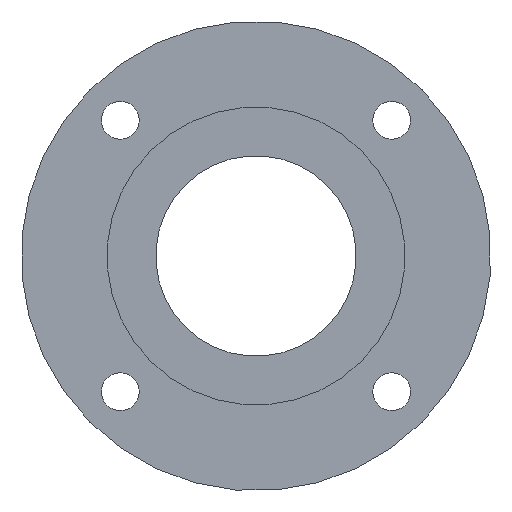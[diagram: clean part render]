
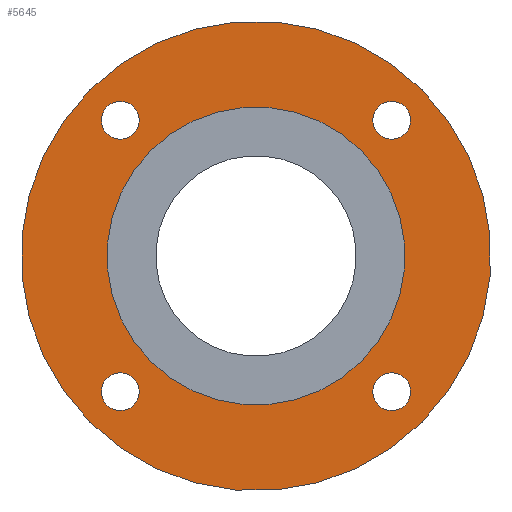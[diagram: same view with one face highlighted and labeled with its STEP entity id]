
A CAD part, left-side view. The second image highlights one B-rep face of the part: STEP entity #5645.
In plain terms, the highlighted planar face has unit normal (-1, 0, 0).
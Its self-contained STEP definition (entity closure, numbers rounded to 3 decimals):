
#111=CIRCLE('',#6002,26.);
#113=CIRCLE('',#6007,3.3);
#114=CIRCLE('',#6008,3.3);
#115=CIRCLE('',#6009,3.3);
#116=CIRCLE('',#6010,3.3);
#117=CIRCLE('',#6011,41.);
#1726=ORIENTED_EDGE('',*,*,#3355,.T.);
#1727=ORIENTED_EDGE('',*,*,#3356,.T.);
#1728=ORIENTED_EDGE('',*,*,#3357,.T.);
#1729=ORIENTED_EDGE('',*,*,#3358,.T.);
#1730=ORIENTED_EDGE('',*,*,#3359,.F.);
#1731=ORIENTED_EDGE('',*,*,#3353,.T.);
#3353=EDGE_CURVE('',#4169,#4169,#111,.T.);
#3355=EDGE_CURVE('',#4171,#4171,#113,.T.);
#3356=EDGE_CURVE('',#4172,#4172,#114,.T.);
#3357=EDGE_CURVE('',#4173,#4173,#115,.T.);
#3358=EDGE_CURVE('',#4174,#4174,#116,.T.);
#3359=EDGE_CURVE('',#4175,#4175,#117,.T.);
#4169=VERTEX_POINT('',#8959);
#4171=VERTEX_POINT('',#8966);
#4172=VERTEX_POINT('',#8968);
#4173=VERTEX_POINT('',#8970);
#4174=VERTEX_POINT('',#8972);
#4175=VERTEX_POINT('',#8974);
#4636=EDGE_LOOP('',(#1726));
#4637=EDGE_LOOP('',(#1727));
#4638=EDGE_LOOP('',(#1728));
#4639=EDGE_LOOP('',(#1729));
#4640=EDGE_LOOP('',(#1730));
#4641=EDGE_LOOP('',(#1731));
#5038=FACE_BOUND('',#4636,.T.);
#5039=FACE_BOUND('',#4637,.T.);
#5040=FACE_BOUND('',#4638,.T.);
#5041=FACE_BOUND('',#4639,.T.);
#5042=FACE_BOUND('',#4640,.T.);
#5043=FACE_BOUND('',#4641,.T.);
#5388=PLANE('',#6006);
#5645=ADVANCED_FACE('',(#5038,#5039,#5040,#5041,#5042,#5043),#5388,.F.);
#6002=AXIS2_PLACEMENT_3D('',#8958,#6518,#6519);
#6006=AXIS2_PLACEMENT_3D('',#8964,#6526,#6527);
#6007=AXIS2_PLACEMENT_3D('',#8965,#6528,#6529);
#6008=AXIS2_PLACEMENT_3D('',#8967,#6530,#6531);
#6009=AXIS2_PLACEMENT_3D('',#8969,#6532,#6533);
#6010=AXIS2_PLACEMENT_3D('',#8971,#6534,#6535);
#6011=AXIS2_PLACEMENT_3D('',#8973,#6536,#6537);
#6518=DIRECTION('',(1.,0.,0.));
#6519=DIRECTION('',(0.,0.707,-0.707));
#6526=DIRECTION('',(1.,0.,0.));
#6527=DIRECTION('',(0.,0.707,-0.707));
#6528=DIRECTION('',(1.,0.,0.));
#6529=DIRECTION('',(0.,0.707,-0.707));
#6530=DIRECTION('',(1.,0.,0.));
#6531=DIRECTION('',(0.,0.707,-0.707));
#6532=DIRECTION('',(1.,0.,0.));
#6533=DIRECTION('',(0.,0.707,-0.707));
#6534=DIRECTION('',(1.,0.,0.));
#6535=DIRECTION('',(0.,0.707,-0.707));
#6536=DIRECTION('',(1.,0.,0.));
#6537=DIRECTION('',(0.,0.707,-0.707));
#8958=CARTESIAN_POINT('',(57.5,0.,0.));
#8959=CARTESIAN_POINT('',(57.5,18.385,-18.385));
#8964=CARTESIAN_POINT('',(57.5,0.,0.));
#8965=CARTESIAN_POINT('',(57.5,23.688,-23.688));
#8966=CARTESIAN_POINT('',(57.5,26.022,-26.022));
#8967=CARTESIAN_POINT('',(57.5,-23.688,-23.688));
#8968=CARTESIAN_POINT('',(57.5,-21.355,-26.022));
#8969=CARTESIAN_POINT('',(57.5,-23.688,23.688));
#8970=CARTESIAN_POINT('',(57.5,-21.355,21.355));
#8971=CARTESIAN_POINT('',(57.5,23.688,23.688));
#8972=CARTESIAN_POINT('',(57.5,26.022,21.355));
#8973=CARTESIAN_POINT('',(57.5,0.,0.));
#8974=CARTESIAN_POINT('',(57.5,28.991,-28.991));
